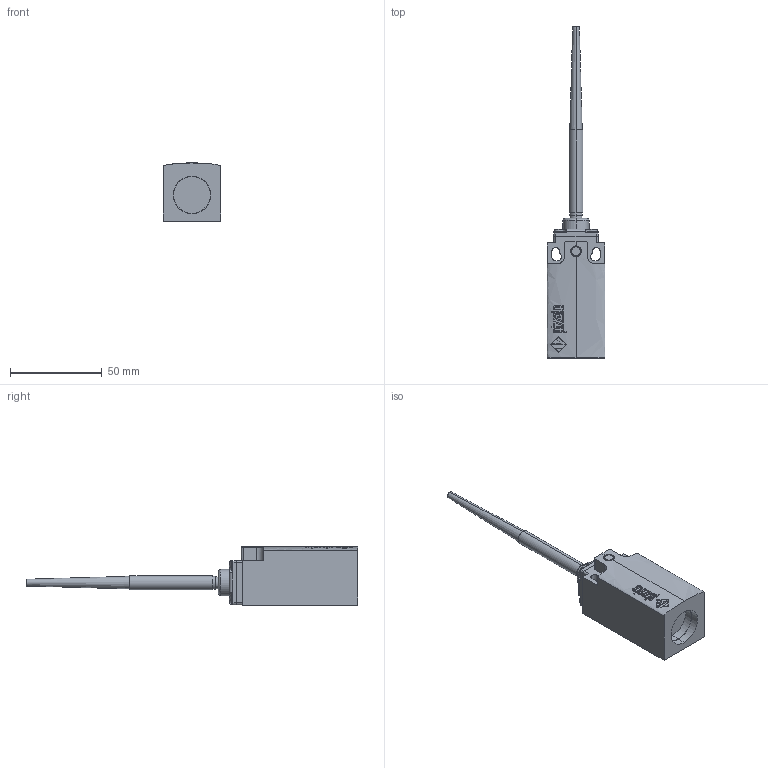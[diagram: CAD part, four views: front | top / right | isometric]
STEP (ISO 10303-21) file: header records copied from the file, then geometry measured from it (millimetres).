
FILE_DESCRIPTION (( 'STEP AP203' ), '1' );
FILE_NAME ('ZF_STEP_FM_x20.STEP', '2024-01-09T16:32:04', ( '' ), ( '' ), 'SwSTEP 2.0', 'SolidWorks 2020', '' );
FILE_SCHEMA (( 'CONFIG_CONTROL_DESIGN' ));
Length unit declared in the file: millimetre
Products named in the file (6): Pizzato_Custodia_FM_3dweb; ZF_STEP_FM_x20; ZF_STEP_VF_TE20; Pizzato_Supporto_TE20; Pizzato_TE20
Assembly tree (5 placements, depth 3):
  ZF_STEP_FM_x20
    Pizzato_Custodia_FM_3dweb
      Pizzato_Custodia_FM_3dweb
    ZF_STEP_VF_TE20
      Pizzato_Supporto_TE20
      Pizzato_TE20
Bounding box: 31.2 x 180.5 x 31.6 mm (x, y, z)
Volume: 62607.4 mm3; surface area: 16913.6 mm2
Topology: 3 solids, 3 shells, 261 faces, 673 edges, 446 vertices
Faces by surface type: plane 150, cylinder 52, bspline 45, sphere 8, torus 4, cone 2
Entity records: 9093 total; most frequent: CARTESIAN_POINT 2443, ORIENTED_EDGE 1346, DIRECTION 1089, EDGE_CURVE 673, VERTEX_POINT 446, LINE 401, VECTOR 401, AXIS2_PLACEMENT_3D 344
